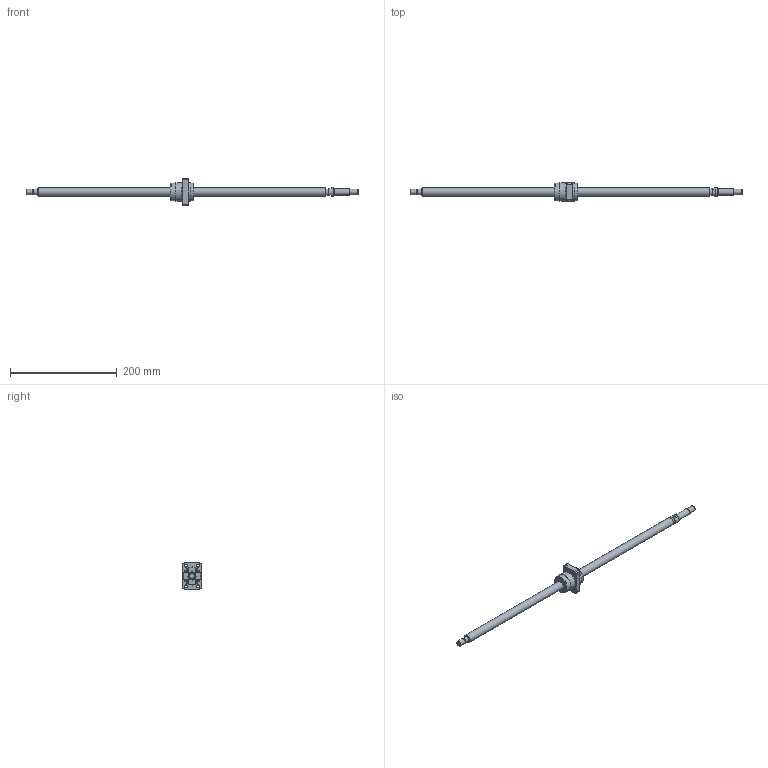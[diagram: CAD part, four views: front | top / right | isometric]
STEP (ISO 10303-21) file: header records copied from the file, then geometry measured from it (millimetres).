
FILE_DESCRIPTION(/* description */ ('STEP AP203'),/* implementation_level */ '2;1');
FILE_NAME(/* name */ 'BNK1510-5.6G0+621LC5Y(291.50)',/* time_stamp */ '2024-07-09T09:23:02+02:00',/* author */ ('License CC BY-ND 4.0'),/* organization */ ('CADENAS'),/* preprocessor_version */ 'ST-DEVELOPER v19.3',/* originating_system */ 'PARTsolutions',/* authorisation */ ' ');
FILE_SCHEMA (('CONFIG_CONTROL_DESIGN'));
Length unit declared in the file: millimetre
Products named in the file (3): BNK1510-5.6G0+621LC5Y(291.50); BNK 1510-5.6G0+621LC5Y Shaft; BNK 1510-5.6G0+621LC5Y0 Nut
Assembly tree (2 placements, depth 2):
  BNK1510-5.6G0+621LC5Y(291.50)
    BNK 1510-5.6G0+621LC5Y Shaft
    BNK 1510-5.6G0+621LC5Y0 Nut
Bounding box: 621 x 34 x 50 mm (x, y, z)
Volume: 140342.4 mm3; surface area: 40552.6 mm2
Topology: 2 solids, 2 shells, 137 faces, 313 edges, 202 vertices
Faces by surface type: plane 76, cylinder 35, cone 20, torus 6
Full cylindrical faces by diameter (mm): 5.188 x1, 5.5 x8, 9.5 x4, 9.6 x1, 10 x3, 12 x1, 13 x1, 15 x3, 30.6 x1, 33 x2, 34 x2
Entity records: 3729 total; most frequent: CARTESIAN_POINT 677, DIRECTION 632, ORIENTED_EDGE 534, EDGE_CURVE 267, AXIS2_PLACEMENT_3D 249, FACE_BOUND 211, EDGE_LOOP 210, VERTEX_POINT 198
